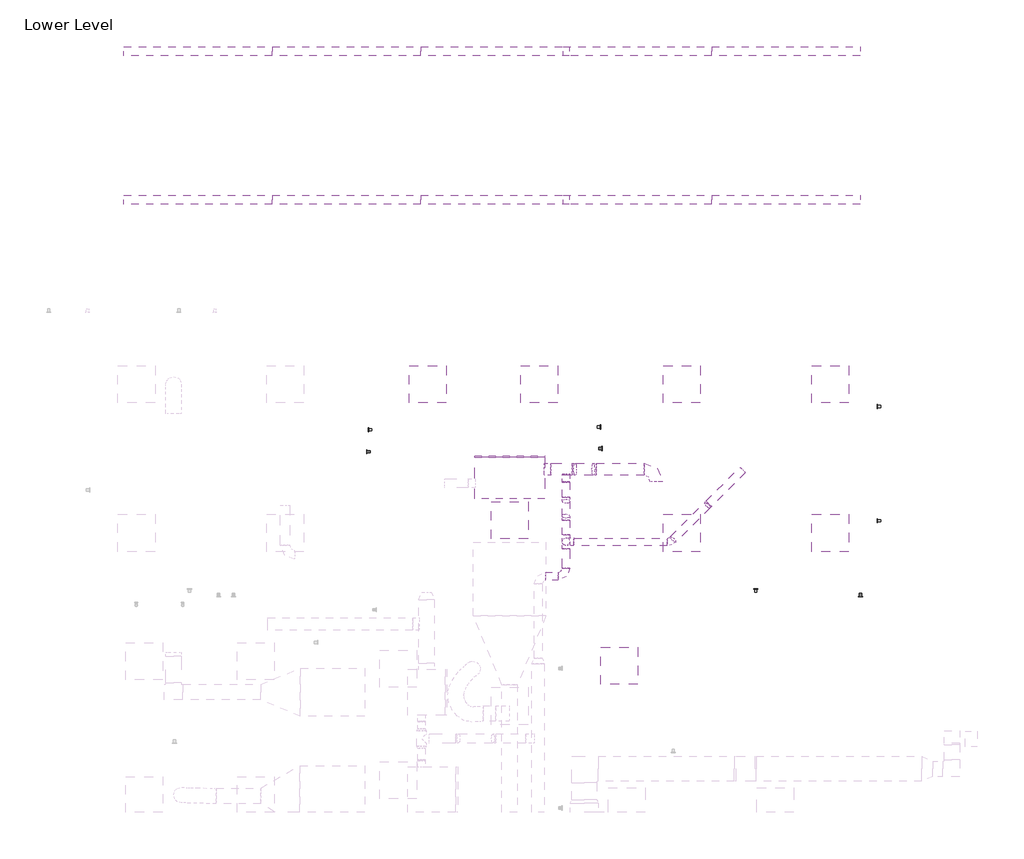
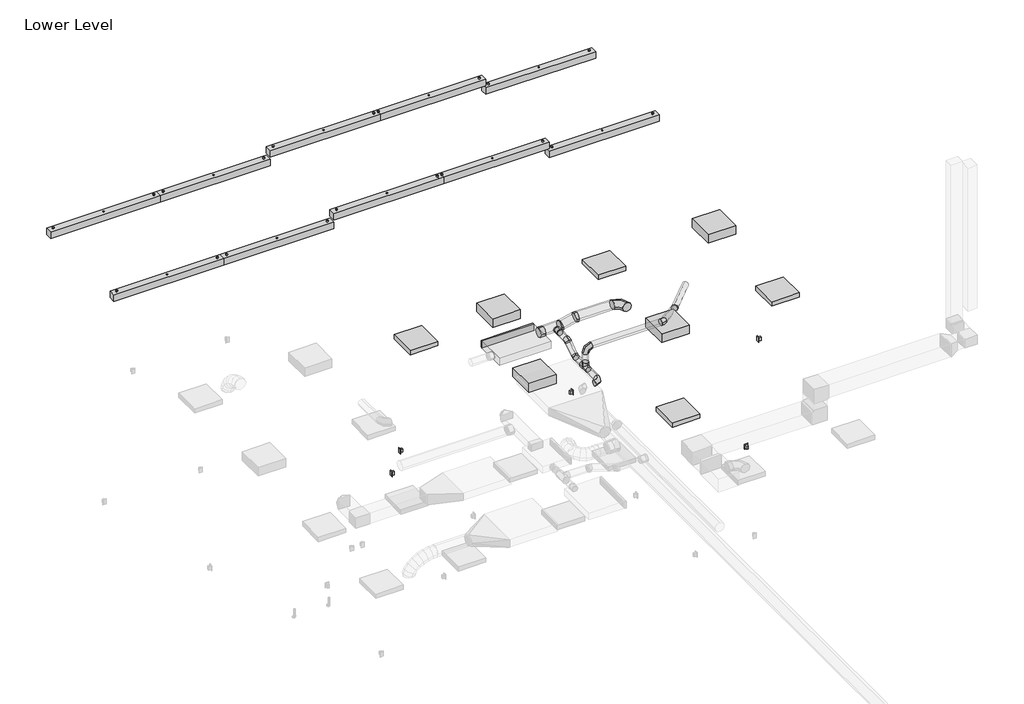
# One storey, part 5 of 5: 18 light fixtures, 13 duct fittings, 13 duct segments, 6 proxies, 3 switching devices.
"""IFC4 building model written with IfcOpenShell, lengths in millimetres."""

from ifc_helpers import new_model, si_unit, point, frame, frame_2d, origin, place, context, project, spatial, polyline, circle_curve, trimmed, segment, composite_curve, outline, extrude, transform, mapped, element, save
from components import mechanical_equipment_142123ad, duplex_receptacle_countertop_10251bba, rectangular_endcap_standard_4dcbd564, round_elbow_1_d_a253342a, round_elbow_1_d_c80420c1, round_elbow_1_d_50cd346b, round_elbow_1_d_92dd7378, round_elbow_1_d_adaedb42, round_elbow_1_d_ad049c3c, round_takeoff_standard_1127d77f, round_takeoff_standard_272bb003, round_tee_standard_ef45fe1c, suspended_fluorescent_strip_non_hosted_exterior_strip_light_cd59f7f1, troffer_corner_insert_2x2_3_lamp_emergency_29e3a813, troffer_corner_insert_2x2_3lamp_e67c7f8f

model = new_model("IFC4")

# Units and contexts
model_context = context("Model", 3, world=origin())
ifc_project = project(units=[si_unit("LENGTHUNIT", "METRE", prefix="MILLI")], contexts=[model_context])

# Site, building, storey
site = spatial("IfcSite", under=ifc_project)
building = spatial("IfcBuilding", under=site)
storey = spatial("IfcBuildingStorey", under=building, Name="Lower Level", Elevation=29972.0)

# Proxies
placement = place(None, origin())
mechanical_equipment_shape = mechanical_equipment_142123ad(model_context)
element("IfcBuildingElementProxy", 1, Name="DOAS Supply to Return Connection : DOAS Supply to Return Duct Connection", ObjectType="DOAS Supply to Return Connection : DOAS Supply to Return Duct Connection", at=placement, inside=storey, context=model_context, shape_type="MappedRepresentation", body=[
    mapped(mechanical_equipment_shape, transform((-12681.344811, 11699.3127622, 33121.6), x_axis=(0.0, -1.0000000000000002, 0.0), y_axis=(1.0000000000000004, 0.0, 0.0), z_axis=(0.0, 0.0, 1.0000000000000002))),
])
duplex_receptacle_countertop_shape = duplex_receptacle_countertop_10251bba(model_context)
element("IfcBuildingElementProxy", 2, Name="Duplex Receptacle : Standard", ObjectType="Duplex Receptacle : Standard", at=placement, inside=storey, context=model_context, shape_type="MappedRepresentation", body=[
    mapped(duplex_receptacle_countertop_shape, transform((-9566.6933679, 9935.5695005, 30429.2), x_axis=(-1.0, 0.0, 0.0), y_axis=(0.0, 0.0, 1.0), z_axis=(0.0, 1.0, 0.0))),
])
element("IfcBuildingElementProxy", 3, Name="Duplex Receptacle : Standard", ObjectType="Duplex Receptacle : Standard", at=placement, inside=storey, context=model_context, shape_type="MappedRepresentation", body=[
    mapped(duplex_receptacle_countertop_shape, transform((-7571.4204607, 11058.6291144, 30429.2), x_axis=(0.0, -1.0, 0.0), y_axis=(0.0, 0.0, 1.0), z_axis=(-1.0, 0.0, 0.0))),
])
element("IfcBuildingElementProxy", 4, Name="Duplex Receptacle : Standard", ObjectType="Duplex Receptacle : Standard", at=placement, inside=storey, context=model_context, shape_type="MappedRepresentation", body=[
    mapped(duplex_receptacle_countertop_shape, transform((-7571.4204607, 12931.5067489, 30429.2), x_axis=(0.0, -1.0, 0.0), y_axis=(0.0, 0.0, 1.0), z_axis=(-1.0, 0.0, 0.0))),
])
element("IfcBuildingElementProxy", 5, Name="Duplex Receptacle : Standard", ObjectType="Duplex Receptacle : Standard", at=placement, inside=storey, context=model_context, shape_type="MappedRepresentation", body=[
    mapped(duplex_receptacle_countertop_shape, transform((-12118.0204607, 12596.1305438, 30429.2), x_axis=(0.0, 1.0, 0.0), y_axis=(0.0, 0.0, 1.0), z_axis=(1.0, 0.0, 0.0))),
])
element("IfcBuildingElementProxy", 6, Name="Duplex Receptacle : Standard", ObjectType="Duplex Receptacle : Standard", at=placement, inside=storey, context=model_context, shape_type="MappedRepresentation", body=[
    mapped(duplex_receptacle_countertop_shape, transform((-15921.6704607, 12550.7082333, 30429.2), x_axis=(0.0, -1.0, 0.0), y_axis=(0.0, 0.0, 1.0), z_axis=(-1.0, 0.0, 0.0))),
])

# Duct fittings
rectangular_endcap_standard_shape = rectangular_endcap_standard_4dcbd564(model_context)
element("IfcDuctFitting", 7, ObjectType="Rectangular Endcap : Standard", at=placement, inside=storey, context=model_context, shape_type="MappedRepresentation", body=[
    mapped(rectangular_endcap_standard_shape, transform((-13605.5079607, 12098.6958297, 33121.5991366), x_axis=(0.0, 0.9999999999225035, 1.2449615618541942e-05), y_axis=(-1.0, 0.0, 0.0), z_axis=(0.0, -1.2449615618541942e-05, 0.9999999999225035))),
])
round_elbow_1_d_shape = round_elbow_1_d_a253342a(model_context)
element("IfcDuctFitting", 8, ObjectType="Round Elbow : 1 D", at=placement, inside=storey, context=model_context, shape_type="MappedRepresentation", body=[
    mapped(round_elbow_1_d_shape, transform((-11194.8892107, 11902.5127622, 33197.8), x_axis=(0.0, 1.0, 0.0), y_axis=(-1.0, 0.0, 0.0), z_axis=(0.0, 0.0, 1.0))),
])
round_elbow_1_d_2_shape = round_elbow_1_d_c80420c1(model_context)
element("IfcDuctFitting", 9, ObjectType="Round Elbow : 1 D", at=placement, inside=storey, context=model_context, shape_type="MappedRepresentation", body=[
    mapped(round_elbow_1_d_2_shape, transform((-12681.344811, 10147.8938374, 32918.4), x_axis=(1.0, 0.0, 0.0), y_axis=(0.0, 1.0, 0.0), z_axis=(0.0, 0.0, 1.0))),
])
element("IfcDuctFitting", 10, ObjectType="Round Elbow : 1 D", at=placement, inside=storey, context=model_context, shape_type="MappedRepresentation", body=[
    mapped(round_elbow_1_d_2_shape, transform((-12681.344811, 10713.399285, 33371.4045654), x_axis=(0.0, 0.0, 1.0), y_axis=(1.0, 0.0, 0.0), z_axis=(0.0, 1.0, 0.0))),
])
round_elbow_1_d_3_shape = round_elbow_1_d_50cd346b(model_context)
element("IfcDuctFitting", 11, ObjectType="Round Elbow : 1 D", at=placement, inside=storey, context=model_context, shape_type="MappedRepresentation", body=[
    mapped(round_elbow_1_d_3_shape, transform((-12681.344811, 11102.4899507, 32918.4), x_axis=(0.0, 1.0, 0.0), y_axis=(0.0, 0.0, 1.0), z_axis=(1.0, 0.0, 0.0))),
])
element("IfcDuctFitting", 12, ObjectType="Round Elbow : 1 D", at=placement, inside=storey, context=model_context, shape_type="MappedRepresentation", body=[
    mapped(round_elbow_1_d_3_shape, transform((-12681.344811, 11408.1197884, 33121.6), x_axis=(0.0, 0.832745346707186, 0.5536561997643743), y_axis=(0.0, 0.5536561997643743, -0.832745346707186), z_axis=(-1.0, 0.0, 0.0))),
])
round_elbow_1_d_4_shape = round_elbow_1_d_92dd7378(model_context)
element("IfcDuctFitting", 13, ObjectType="Round Elbow : 1 D", at=placement, inside=storey, context=model_context, shape_type="MappedRepresentation", body=[
    mapped(round_elbow_1_d_4_shape, transform((-10350.267801, 11323.544011, 33114.0593852), x_axis=(-0.7071067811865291, -0.7071067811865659, 0.0), y_axis=(0.0, 0.0, 1.0), z_axis=(-0.7071067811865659, 0.7071067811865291, 0.0))),
])
round_elbow_1_d_5_shape = round_elbow_1_d_adaedb42(model_context)
element("IfcDuctFitting", 14, ObjectType="Round Elbow : 1 D", at=placement, inside=storey, context=model_context, shape_type="MappedRepresentation", body=[
    mapped(round_elbow_1_d_5_shape, transform((-10960.412527, 10713.399285, 33371.4045654), x_axis=(1.0, 0.0, 0.0), y_axis=(0.0, 0.921396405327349, -0.3886240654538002), z_axis=(0.0, 0.3886240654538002, 0.921396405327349))),
])
round_elbow_1_d_6_shape = round_elbow_1_d_ad049c3c(model_context)
element("IfcDuctFitting", 15, ObjectType="Round Elbow : 1 D", at=placement, inside=storey, context=model_context, shape_type="MappedRepresentation", body=[
    mapped(round_elbow_1_d_6_shape, transform((-12553.9579607, 11902.5127622, 33121.6), x_axis=(1.0, 0.0, 0.0), y_axis=(0.0, 0.0, 1.0), z_axis=(0.0, -1.0, 0.0))),
])
element("IfcDuctFitting", 16, ObjectType="Round Elbow : 1 D", at=placement, inside=storey, context=model_context, shape_type="MappedRepresentation", body=[
    mapped(round_elbow_1_d_6_shape, transform((-12210.8892107, 11902.5127622, 33197.8), x_axis=(-1.0, 0.0, 0.0), y_axis=(0.0, 0.0, -1.0), z_axis=(0.0, -1.0, 0.0))),
])
round_takeoff_standard_shape = round_takeoff_standard_1127d77f(model_context)
element("IfcDuctFitting", 17, ObjectType="Round Takeoff : Standard", at=placement, inside=storey, context=model_context, shape_type="MappedRepresentation", body=[
    mapped(round_takeoff_standard_shape, transform((-13030.2079607, 11902.5127622, 33121.6), x_axis=(1.0, 0.0, 0.0), y_axis=(0.0, -1.0, 0.0), z_axis=(0.0, 0.0, -1.0))),
])
round_takeoff_standard_2_shape = round_takeoff_standard_272bb003(model_context)
element("IfcDuctFitting", 18, ObjectType="Round Takeoff : Standard", at=placement, inside=storey, context=model_context, shape_type="MappedRepresentation", body=[
    mapped(round_takeoff_standard_2_shape, transform((-12681.344811, 11800.9127622, 33121.6), x_axis=(0.0, -1.0, 0.0), y_axis=(-1.0, 0.0, 0.0), z_axis=(0.0, 0.0, -1.0))),
])
round_tee_standard_shape = round_tee_standard_ef45fe1c(model_context)
element("IfcDuctFitting", 19, ObjectType="Round Tee : Standard", at=placement, inside=storey, context=model_context, shape_type="MappedRepresentation", body=[
    mapped(round_tee_standard_shape, transform((-12681.344811, 10713.399285, 32918.4), x_axis=(0.0, 1.0, 0.0), y_axis=(0.0, 0.0, -1.0000000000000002), z_axis=(-1.0000000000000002, 0.0, 0.0))),
])

# Duct segments
element("IfcDuctSegment", 20, ObjectType="Mitered Elbows / Taps", at=placement, inside=storey, context=model_context, shape_type="SweptSolid", body=[
    extrude(outline(polyline([(0.0, -1150.6), (0.0, 0.0), (683.6848949, 0.0), (683.6848949, -1150.6), (0.0, -1150.6)])), frame((-13030.2079607, 12098.6968244, 33041.6991366), z_axis=(0.0, -1.2449615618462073e-05, 0.9999999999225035), x_axis=(0.0, -0.9999999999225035, -1.2449615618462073e-05)), (0.0, 0.0, 1.0), 159.8),
])
element("IfcDuctSegment", 21, ObjectType="Taps / Short Radius", at=placement, inside=storey, context=model_context, shape_type="SweptSolid", body=[
    extrude(outline(composite_curve([segment(trimmed(circle_curve(frame_2d((11902.5127622, 33121.6)), 101.6), [point((12004.1127622, 33121.6))], [point((11902.5127622, 33020.0))], False, "CARTESIAN"), True, "CONTINUOUS"), segment(trimmed(circle_curve(frame_2d((11902.5127622, 33121.6)), 101.6), [point((11902.5127622, 33020.0))], [point((11800.9127622, 33121.6))], False, "CARTESIAN"), True, "CONTINUOUS"), segment(trimmed(circle_curve(frame_2d((11902.5127622, 33121.6)), 101.6), [point((11800.9127622, 33121.6))], [point((11902.5127622, 33223.2))], False, "CARTESIAN"), True, "CONTINUOUS"), segment(trimmed(circle_curve(frame_2d((11902.5127622, 33121.6)), 101.6), [point((11902.5127622, 33223.2))], [point((12004.1127622, 33121.6))], False, "CARTESIAN"), True, "CONTINUOUS")], self_intersect=False)), frame((-12928.6079607, 0.0, 0.0), z_axis=(1.0, 0.0, 0.0), x_axis=(0.0, 1.0, 0.0)), (0.0, 0.0, 1.0), 352.3549939),
])
element("IfcDuctSegment", 22, ObjectType="Taps / Short Radius", at=placement, inside=storey, context=model_context, shape_type="SweptSolid", body=[
    extrude(outline(composite_curve([segment(trimmed(circle_curve(frame_2d((32918.4, -12681.344811)), 63.5), [point((32918.4, -12744.844811))], [point((32854.9, -12681.344811))], False, "CARTESIAN"), True, "CONTINUOUS"), segment(trimmed(circle_curve(frame_2d((32918.4, -12681.344811)), 63.5), [point((32854.9, -12681.344811))], [point((32918.4, -12617.844811))], False, "CARTESIAN"), True, "CONTINUOUS"), segment(trimmed(circle_curve(frame_2d((32918.4, -12681.344811)), 63.5), [point((32918.4, -12617.844811))], [point((32981.9, -12681.344811))], False, "CARTESIAN"), True, "CONTINUOUS"), segment(trimmed(circle_curve(frame_2d((32918.4, -12681.344811)), 63.5), [point((32981.9, -12681.344811))], [point((32918.4, -12744.844811))], False, "CARTESIAN"), True, "CONTINUOUS")], self_intersect=False)), frame((0.0, 10274.8938374, 0.0), z_axis=(0.0, 1.0, 0.0), x_axis=(0.0, 0.0, 1.0)), (0.0, 0.0, 1.0), 324.2054476),
])
element("IfcDuctSegment", 23, ObjectType="Taps / Short Radius", at=placement, inside=storey, context=model_context, shape_type="SweptSolid", body=[
    extrude(outline(composite_curve([segment(trimmed(circle_curve(frame_2d((10147.8938374, 32918.4)), 63.5), [point((10211.3938374, 32918.4))], [point((10147.8938374, 32854.9))], False, "CARTESIAN"), True, "CONTINUOUS"), segment(trimmed(circle_curve(frame_2d((10147.8938374, 32918.4)), 63.5), [point((10147.8938374, 32854.9))], [point((10084.3938374, 32918.4))], False, "CARTESIAN"), True, "CONTINUOUS"), segment(trimmed(circle_curve(frame_2d((10147.8938374, 32918.4)), 63.5), [point((10084.3938374, 32918.4))], [point((10147.8938374, 32981.9))], False, "CARTESIAN"), True, "CONTINUOUS"), segment(trimmed(circle_curve(frame_2d((10147.8938374, 32918.4)), 63.5), [point((10147.8938374, 32981.9))], [point((10211.3938374, 32918.4))], False, "CARTESIAN"), True, "CONTINUOUS")], self_intersect=False)), frame((-13011.544811, 0.0, 0.0), z_axis=(1.0, 0.0, 0.0), x_axis=(0.0, 1.0, 0.0)), (0.0, 0.0, 1.0), 203.2),
])
element("IfcDuctSegment", 24, ObjectType="Taps / Short Radius", at=placement, inside=storey, context=model_context, shape_type="SweptSolid", body=[
    extrude(outline(composite_curve([segment(trimmed(circle_curve(frame_2d((32918.4, -12681.344811)), 63.5), [point((32918.4, -12617.844811))], [point((32981.9, -12681.344811))], False, "CARTESIAN"), True, "CONTINUOUS"), segment(trimmed(circle_curve(frame_2d((32918.4, -12681.344811)), 63.5), [point((32981.9, -12681.344811))], [point((32918.4, -12744.844811))], False, "CARTESIAN"), True, "CONTINUOUS"), segment(trimmed(circle_curve(frame_2d((32918.4, -12681.344811)), 63.5), [point((32918.4, -12744.844811))], [point((32854.9, -12681.344811))], False, "CARTESIAN"), True, "CONTINUOUS"), segment(trimmed(circle_curve(frame_2d((32918.4, -12681.344811)), 63.5), [point((32854.9, -12681.344811))], [point((32918.4, -12617.844811))], False, "CARTESIAN"), True, "CONTINUOUS")], self_intersect=False)), frame((0.0, 10827.699285, 0.0), z_axis=(0.0, 1.0, 0.0), x_axis=(0.0, 0.0, 1.0)), (0.0, 0.0, 1.0), 236.4250861),
])
element("IfcDuctSegment", 25, ObjectType="Taps / Short Radius", at=placement, inside=storey, context=model_context, shape_type="SweptSolid", body=[
    extrude(outline(composite_curve([segment(trimmed(circle_curve(frame_2d((0.0, 63.4999999)), 63.5), [point((63.5, 63.4999999))], [point((0.0, 0.0))], False, "CARTESIAN"), True, "CONTINUOUS"), segment(trimmed(circle_curve(frame_2d((0.0, 63.4999999)), 63.5), [point((0.0, 0.0))], [point((-63.5, 63.4999999))], False, "CARTESIAN"), True, "CONTINUOUS"), segment(trimmed(circle_curve(frame_2d((0.0, 63.4999999)), 63.5), [point((-63.5, 63.4999999))], [point((0.0, 126.9999999))], False, "CARTESIAN"), True, "CONTINUOUS"), segment(trimmed(circle_curve(frame_2d((0.0, 63.4999999)), 63.5), [point((0.0, 126.9999999))], [point((63.5, 63.4999999))], False, "CARTESIAN"), True, "CONTINUOUS")], self_intersect=False)), frame((-12681.344811, 11099.2815399, 32992.5206705), z_axis=(1.4799828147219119e-12, 0.8327453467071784, 0.5536561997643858), x_axis=(1.0, -1.2292389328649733e-12, 0.0)), (0.0, 0.0, 1.0), 290.2836058),
])
element("IfcDuctSegment", 26, ObjectType="Taps / Short Radius", at=placement, inside=storey, context=model_context, shape_type="SweptSolid", body=[
    extrude(outline(composite_curve([segment(trimmed(circle_curve(frame_2d((33121.6, -12681.344811)), 63.5), [point((33121.6, -12617.844811))], [point((33185.1, -12681.344811))], False, "CARTESIAN"), True, "CONTINUOUS"), segment(trimmed(circle_curve(frame_2d((33121.6, -12681.344811)), 63.5), [point((33185.1, -12681.344811))], [point((33121.6, -12744.844811))], False, "CARTESIAN"), True, "CONTINUOUS"), segment(trimmed(circle_curve(frame_2d((33121.6, -12681.344811)), 63.5), [point((33121.6, -12744.844811))], [point((33058.1, -12681.344811))], False, "CARTESIAN"), True, "CONTINUOUS"), segment(trimmed(circle_curve(frame_2d((33121.6, -12681.344811)), 63.5), [point((33058.1, -12681.344811))], [point((33121.6, -12617.844811))], False, "CARTESIAN"), True, "CONTINUOUS")], self_intersect=False)), frame((0.0, 11446.4853679, 0.0), z_axis=(0.0, 1.0, 0.0), x_axis=(0.0, 0.0, 1.0)), (0.0, 0.0, 1.0), 240.1273943),
])
element("IfcDuctSegment", 27, ObjectType="Taps / Short Radius", at=placement, inside=storey, context=model_context, shape_type="SweptSolid", body=[
    extrude(outline(composite_curve([segment(trimmed(circle_curve(frame_2d((-12681.344811, 10713.399285)), 63.5), [point((-12681.344811, 10649.899285))], [point((-12744.844811, 10713.399285))], False, "CARTESIAN"), True, "CONTINUOUS"), segment(trimmed(circle_curve(frame_2d((-12681.344811, 10713.399285)), 63.5), [point((-12744.844811, 10713.399285))], [point((-12681.344811, 10776.899285))], False, "CARTESIAN"), True, "CONTINUOUS"), segment(trimmed(circle_curve(frame_2d((-12681.344811, 10713.399285)), 63.5), [point((-12681.344811, 10776.899285))], [point((-12617.844811, 10713.399285))], False, "CARTESIAN"), True, "CONTINUOUS"), segment(trimmed(circle_curve(frame_2d((-12681.344811, 10713.399285)), 63.5), [point((-12617.844811, 10713.399285))], [point((-12681.344811, 10649.899285))], False, "CARTESIAN"), True, "CONTINUOUS")], self_intersect=False)), frame((0.0, 0.0, 33032.7), z_axis=(0.0, 0.0, 1.0), x_axis=(1.0, 0.0, 0.0)), (0.0, 0.0, 1.0), 211.7045654),
])
element("IfcDuctSegment", 28, ObjectType="Taps / Short Radius", at=placement, inside=storey, context=model_context, shape_type="SweptSolid", body=[
    extrude(outline(composite_curve([segment(trimmed(circle_curve(frame_2d((0.0, -63.5)), 63.5), [point((-63.5, -63.5))], [point((0.0, 0.0))], False, "CARTESIAN"), True, "CONTINUOUS"), segment(trimmed(circle_curve(frame_2d((0.0, -63.5)), 63.5), [point((0.0, 0.0))], [point((63.5, -63.5))], False, "CARTESIAN"), True, "CONTINUOUS"), segment(trimmed(circle_curve(frame_2d((0.0, -63.5)), 63.5), [point((63.5, -63.5))], [point((0.0, -127.0))], False, "CARTESIAN"), True, "CONTINUOUS"), segment(trimmed(circle_curve(frame_2d((0.0, -63.5)), 63.5), [point((0.0, -127.0))], [point((-63.5, -63.5))], False, "CARTESIAN"), True, "CONTINUOUS")], self_intersect=False)), frame((-10337.1616074, 11336.6502046, 33050.5593852), z_axis=(0.7071067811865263, 0.7071067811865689, 0.0), x_axis=(0.7071067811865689, -0.7071067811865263, 0.0)), (0.0, 0.0, 1.0), 785.0995942),
])
element("IfcDuctSegment", 29, ObjectType="Taps / Short Radius", at=placement, inside=storey, context=model_context, shape_type="SweptSolid", body=[
    extrude(outline(composite_curve([segment(trimmed(circle_curve(frame_2d((0.0, 63.5000001)), 63.5), [point((17.4497182, 124.5553629))], [point((61.0553628, 46.0502819))], False, "CARTESIAN"), True, "CONTINUOUS"), segment(trimmed(circle_curve(frame_2d((0.0, 63.5000001)), 63.5), [point((61.0553628, 46.0502819))], [point((-17.4497182, 2.4446372))], False, "CARTESIAN"), True, "CONTINUOUS"), segment(trimmed(circle_curve(frame_2d((0.0, 63.5000001)), 63.5), [point((-17.4497182, 2.4446372))], [point((-61.0553629, 80.9497183))], False, "CARTESIAN"), True, "CONTINUOUS"), segment(trimmed(circle_curve(frame_2d((0.0, 63.5000001)), 63.5), [point((-61.0553629, 80.9497183))], [point((17.4497182, 124.5553629))], False, "CARTESIAN"), True, "CONTINUOUS")], self_intersect=False)), frame((-10362.8273199, 11286.306864, 33060.8480331), z_axis=(-0.6776125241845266, -0.6776125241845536, 0.28580156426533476), x_axis=(0.735419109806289, -0.6243497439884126, 0.2633365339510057)), (0.0, 0.0, 1.0), 826.2248131),
])
element("IfcDuctSegment", 30, ObjectType="Taps / Short Radius", at=placement, inside=storey, context=model_context, shape_type="SweptSolid", body=[
    extrude(outline(composite_curve([segment(trimmed(circle_curve(frame_2d((10713.399285, 33371.4045654)), 63.5), [point((10738.0769132, 33429.9132371))], [point((10771.9079568, 33346.7269372))], False, "CARTESIAN"), True, "CONTINUOUS"), segment(trimmed(circle_curve(frame_2d((10713.399285, 33371.4045654)), 63.5), [point((10771.9079568, 33346.7269372))], [point((10688.7216569, 33312.8958937))], False, "CARTESIAN"), True, "CONTINUOUS"), segment(trimmed(circle_curve(frame_2d((10713.399285, 33371.4045654)), 63.5), [point((10688.7216569, 33312.8958937))], [point((10654.8906133, 33396.0821936))], False, "CARTESIAN"), True, "CONTINUOUS"), segment(trimmed(circle_curve(frame_2d((10713.399285, 33371.4045654)), 63.5), [point((10654.8906133, 33396.0821936))], [point((10738.0769132, 33429.9132371))], False, "CARTESIAN"), True, "CONTINUOUS")], self_intersect=False)), frame((-12554.344811, 0.0, 0.0), z_axis=(1.0, 0.0, 0.0), x_axis=(0.0, 1.0, 0.0)), (0.0, 0.0, 1.0), 1538.258983),
])
element("IfcDuctSegment", 31, ObjectType="Taps / Short Radius", at=placement, inside=storey, context=model_context, shape_type="SweptSolid", body=[
    extrude(outline(composite_curve([segment(trimmed(circle_curve(frame_2d((11902.5127622, 33197.8)), 101.6), [point((12004.1127622, 33197.8))], [point((11902.5127622, 33096.2))], False, "CARTESIAN"), True, "CONTINUOUS"), segment(trimmed(circle_curve(frame_2d((11902.5127622, 33197.8)), 101.6), [point((11902.5127622, 33096.2))], [point((11800.9127622, 33197.8))], False, "CARTESIAN"), True, "CONTINUOUS"), segment(trimmed(circle_curve(frame_2d((11902.5127622, 33197.8)), 101.6), [point((11800.9127622, 33197.8))], [point((11902.5127622, 33299.4))], False, "CARTESIAN"), True, "CONTINUOUS"), segment(trimmed(circle_curve(frame_2d((11902.5127622, 33197.8)), 101.6), [point((11902.5127622, 33299.4))], [point((12004.1127622, 33197.8))], False, "CARTESIAN"), True, "CONTINUOUS")], self_intersect=False)), frame((-12188.5942046, 0.0, 0.0), z_axis=(1.0, 0.0, 0.0), x_axis=(0.0, 1.0, 0.0)), (0.0, 0.0, 1.0), 790.5049939),
])
element("IfcDuctSegment", 32, ObjectType="Taps / Short Radius", at=placement, inside=storey, context=model_context, shape_type="SweptSolid", body=[
    extrude(outline(composite_curve([segment(trimmed(circle_curve(frame_2d((0.0, 101.6)), 101.6), [point((0.0, 0.0))], [point((-101.6, 101.6))], False, "CARTESIAN"), True, "CONTINUOUS"), segment(trimmed(circle_curve(frame_2d((0.0, 101.6)), 101.6), [point((-101.6, 101.6))], [point((0.0, 203.2))], False, "CARTESIAN"), True, "CONTINUOUS"), segment(trimmed(circle_curve(frame_2d((0.0, 101.6)), 101.6), [point((0.0, 203.2))], [point((101.6, 101.6))], False, "CARTESIAN"), True, "CONTINUOUS"), segment(trimmed(circle_curve(frame_2d((0.0, 101.6)), 101.6), [point((101.6, 101.6))], [point((0.0, 0.0))], False, "CARTESIAN"), True, "CONTINUOUS")], self_intersect=False)), frame((-12532.1933605, 11800.9127622, 33126.4341988), z_axis=(0.976209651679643, 0.0, 0.2168287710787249), x_axis=(0.2168287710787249, 0.0, -0.976209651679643)), (0.0, 0.0, 1.0), 306.8393651),
])

# Light fixtures
suspended_fluorescent_strip_non_hosted_exterior_strip_light_shape = suspended_fluorescent_strip_non_hosted_exterior_strip_light_cd59f7f1(model_context)
element("IfcLightFixture", 33, ObjectType="Suspended Fluorescent Strip - Non-Hosted : Exterior Strip Light 1x8 - 120V Normal", at=placement, inside=storey, context=model_context, shape_type="MappedRepresentation", body=[
    mapped(suspended_fluorescent_strip_non_hosted_exterior_strip_light_shape, transform((-18720.6103906, 16325.069275, 33629.6), x_axis=(1.0, 0.0, 0.0), y_axis=(0.0, 1.0, 0.0), z_axis=(0.0, 0.0, 1.0))),
])
element("IfcLightFixture", 34, ObjectType="Suspended Fluorescent Strip - Non-Hosted : Exterior Strip Light 1x8 - 120V Normal", at=placement, inside=storey, context=model_context, shape_type="MappedRepresentation", body=[
    mapped(suspended_fluorescent_strip_non_hosted_exterior_strip_light_shape, transform((-18720.6103906, 18763.469275, 33629.6), x_axis=(1.0, 0.0, 0.0), y_axis=(0.0, 1.0, 0.0), z_axis=(0.0, 0.0, 1.0))),
])
element("IfcLightFixture", 35, ObjectType="Suspended Fluorescent Strip - Non-Hosted : Exterior Strip Light 1x8 - 120V Normal", at=placement, inside=storey, context=model_context, shape_type="MappedRepresentation", body=[
    mapped(suspended_fluorescent_strip_non_hosted_exterior_strip_light_shape, transform((-16282.2103906, 16325.069275, 33629.6), x_axis=(1.0, 0.0, 0.0), y_axis=(0.0, 1.0, 0.0), z_axis=(0.0, 0.0, 1.0))),
])
element("IfcLightFixture", 36, ObjectType="Suspended Fluorescent Strip - Non-Hosted : Exterior Strip Light 1x8 - 120V Normal", at=placement, inside=storey, context=model_context, shape_type="MappedRepresentation", body=[
    mapped(suspended_fluorescent_strip_non_hosted_exterior_strip_light_shape, transform((-16282.2103906, 18763.469275, 33629.6), x_axis=(1.0, 0.0, 0.0), y_axis=(0.0, 1.0, 0.0), z_axis=(0.0, 0.0, 1.0))),
])
element("IfcLightFixture", 37, ObjectType="Suspended Fluorescent Strip - Non-Hosted : Exterior Strip Light 1x8 - 120V Normal", at=placement, inside=storey, context=model_context, shape_type="MappedRepresentation", body=[
    mapped(suspended_fluorescent_strip_non_hosted_exterior_strip_light_shape, transform((-13843.8103906, 16325.069275, 33832.8), x_axis=(1.0, 0.0, 0.0), y_axis=(0.0, 1.0, 0.0), z_axis=(0.0, 0.0, 1.0))),
])
element("IfcLightFixture", 38, ObjectType="Suspended Fluorescent Strip - Non-Hosted : Exterior Strip Light 1x8 - 120V Normal", at=placement, inside=storey, context=model_context, shape_type="MappedRepresentation", body=[
    mapped(suspended_fluorescent_strip_non_hosted_exterior_strip_light_shape, transform((-13843.8103906, 18763.469275, 33832.8), x_axis=(1.0, 0.0, 0.0), y_axis=(0.0, 1.0, 0.0), z_axis=(0.0, 0.0, 1.0))),
])
element("IfcLightFixture", 39, ObjectType="Suspended Fluorescent Strip - Non-Hosted : Exterior Strip Light 1x8 - 120V Normal", at=placement, inside=storey, context=model_context, shape_type="MappedRepresentation", body=[
    mapped(suspended_fluorescent_strip_non_hosted_exterior_strip_light_shape, transform((-11507.0103906, 16325.069275, 33832.8), x_axis=(1.0, 0.0, 0.0), y_axis=(0.0, 1.0, 0.0), z_axis=(0.0, 0.0, 1.0))),
])
element("IfcLightFixture", 40, ObjectType="Suspended Fluorescent Strip - Non-Hosted : Exterior Strip Light 1x8 - 120V Normal", at=placement, inside=storey, context=model_context, shape_type="MappedRepresentation", body=[
    mapped(suspended_fluorescent_strip_non_hosted_exterior_strip_light_shape, transform((-11507.0103906, 18763.469275, 33832.8), x_axis=(1.0, 0.0, 0.0), y_axis=(0.0, 1.0, 0.0), z_axis=(0.0, 0.0, 1.0))),
])
element("IfcLightFixture", 41, ObjectType="Suspended Fluorescent Strip - Non-Hosted : Exterior Strip Light 1x8 - 120V Normal", at=placement, inside=storey, context=model_context, shape_type="MappedRepresentation", body=[
    mapped(suspended_fluorescent_strip_non_hosted_exterior_strip_light_shape, transform((-9068.6103906, 16325.069275, 33629.6), x_axis=(1.0, 0.0, 0.0), y_axis=(0.0, 1.0, 0.0), z_axis=(0.0, 0.0, 1.0))),
])
element("IfcLightFixture", 42, ObjectType="Suspended Fluorescent Strip - Non-Hosted : Exterior Strip Light 1x8 - 120V Normal", at=placement, inside=storey, context=model_context, shape_type="MappedRepresentation", body=[
    mapped(suspended_fluorescent_strip_non_hosted_exterior_strip_light_shape, transform((-9068.6103906, 18763.469275, 33629.6), x_axis=(1.0, 0.0, 0.0), y_axis=(0.0, 1.0, 0.0), z_axis=(0.0, 0.0, 1.0))),
])
troffer_corner_insert_2x2_3_lamp_emergency_shape = troffer_corner_insert_2x2_3_lamp_emergency_29e3a813(model_context)
element("IfcLightFixture", 43, ObjectType="Troffer Corner Insert : 2x2 3 Lamp Emergency", at=placement, inside=storey, context=model_context, shape_type="MappedRepresentation", body=[
    mapped(troffer_corner_insert_2x2_3_lamp_emergency_shape, transform((-10779.7579607, 10856.3195005, 30581.6), x_axis=(1.0, 0.0, 0.0), y_axis=(0.0, 1.0, 0.0), z_axis=(0.0, 0.0, 1.0))),
])
element("IfcLightFixture", 44, ObjectType="Troffer Corner Insert : 2x2 3 Lamp Emergency", at=placement, inside=storey, context=model_context, shape_type="MappedRepresentation", body=[
    mapped(troffer_corner_insert_2x2_3_lamp_emergency_shape, transform((-8341.3579607, 13294.7195005, 30581.6), x_axis=(1.0, 0.0, 0.0), y_axis=(0.0, 1.0, 0.0), z_axis=(0.0, 0.0, 1.0))),
])
element("IfcLightFixture", 45, ObjectType="Troffer Corner Insert : 2x2 3 Lamp Emergency", at=placement, inside=storey, context=model_context, shape_type="MappedRepresentation", body=[
    mapped(troffer_corner_insert_2x2_3_lamp_emergency_shape, transform((-13605.5079607, 11064.2820005, 30276.8), x_axis=(1.0, 0.0, 0.0), y_axis=(0.0, 1.0, 0.0), z_axis=(0.0, 0.0, 1.0))),
])
element("IfcLightFixture", 46, ObjectType="Troffer Corner Insert : 2x2 3 Lamp Emergency", at=placement, inside=storey, context=model_context, shape_type="MappedRepresentation", body=[
    mapped(troffer_corner_insert_2x2_3_lamp_emergency_shape, transform((-13121.3204607, 13294.7195005, 30276.8), x_axis=(1.0, 0.0, 0.0), y_axis=(0.0, 1.0, 0.0), z_axis=(0.0, 0.0, 1.0))),
])
troffer_corner_insert_2x2_3lamp_shape = troffer_corner_insert_2x2_3lamp_e67c7f8f(model_context)
element("IfcLightFixture", 47, ObjectType="Troffer Corner Insert : 2x2 3Lamp", at=placement, inside=storey, context=model_context, shape_type="MappedRepresentation", body=[
    mapped(troffer_corner_insert_2x2_3lamp_shape, transform((-11804.4892107, 8675.0945005, 30276.8), x_axis=(1.0, 0.0, 0.0), y_axis=(0.0, 1.0, 0.0), z_axis=(0.0, 0.0, 1.0))),
])
element("IfcLightFixture", 48, ObjectType="Troffer Corner Insert : 2x2 3Lamp", at=placement, inside=storey, context=model_context, shape_type="MappedRepresentation", body=[
    mapped(troffer_corner_insert_2x2_3lamp_shape, transform((-10779.7579607, 13294.7195005, 30581.6), x_axis=(1.0, 0.0, 0.0), y_axis=(0.0, 1.0, 0.0), z_axis=(0.0, 0.0, 1.0))),
])
element("IfcLightFixture", 49, ObjectType="Troffer Corner Insert : 2x2 3Lamp", at=placement, inside=storey, context=model_context, shape_type="MappedRepresentation", body=[
    mapped(troffer_corner_insert_2x2_3lamp_shape, transform((-8341.3579607, 10856.3195005, 30581.6), x_axis=(1.0, 0.0, 0.0), y_axis=(0.0, 1.0, 0.0), z_axis=(0.0, 0.0, 1.0))),
])
element("IfcLightFixture", 50, ObjectType="Troffer Corner Insert : 2x2 3Lamp", at=placement, inside=storey, context=model_context, shape_type="MappedRepresentation", body=[
    mapped(troffer_corner_insert_2x2_3lamp_shape, transform((-14950.1204607, 13294.7195005, 30276.8), x_axis=(1.0, 0.0, 0.0), y_axis=(0.0, 1.0, 0.0), z_axis=(0.0, 0.0, 1.0))),
])

# Switching devices
element("IfcSwitchingDevice", 51, ObjectType="Lighting Switches - Occupancy Sensor : Occupancy Sensor", at=placement, inside=storey, context=model_context, shape_type="MappedRepresentation", body=[
    mapped(duplex_receptacle_countertop_shape, transform((-12091.0329607, 12243.4448296, 31191.2), x_axis=(0.0, 1.0, 0.0), y_axis=(0.0, 0.0, 1.0), z_axis=(1.0, 0.0, 0.0))),
])
element("IfcSwitchingDevice", 52, ObjectType="Lighting Switches - Occupancy Sensor : Occupancy Sensor", at=placement, inside=storey, context=model_context, shape_type="MappedRepresentation", body=[
    mapped(duplex_receptacle_countertop_shape, transform((-15948.6579607, 12189.8195005, 31191.2), x_axis=(0.0, -1.0, 0.0), y_axis=(0.0, 0.0, 1.0), z_axis=(-1.0, 0.0, 0.0))),
])
element("IfcSwitchingDevice", 53, ObjectType="Lighting Switches : Single Pole", at=placement, inside=storey, context=model_context, shape_type="MappedRepresentation", body=[
    mapped(duplex_receptacle_countertop_shape, transform((-7848.5670672, 9811.7445005, 31191.2), x_axis=(1.0, 0.0, 0.0), y_axis=(0.0, 0.0, 1.0), z_axis=(0.0, -1.0, 0.0))),
])

save(model, "model.ifc")
